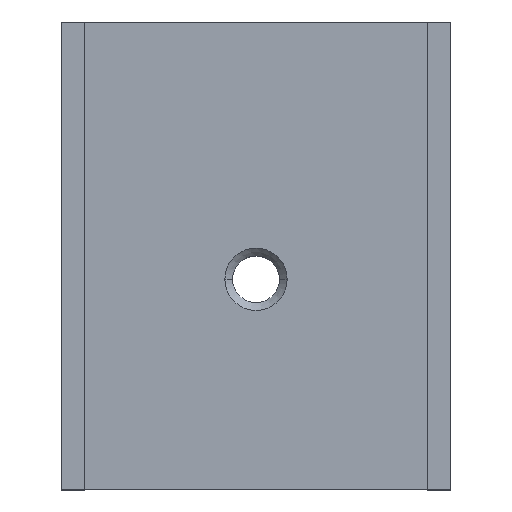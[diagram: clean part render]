
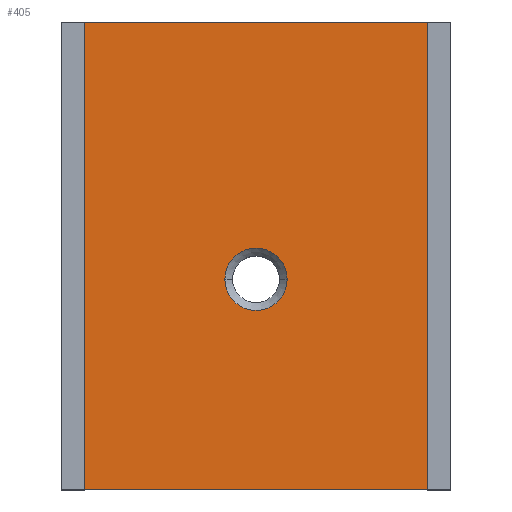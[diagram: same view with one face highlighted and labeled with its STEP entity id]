
A CAD part, top view. The second image highlights one B-rep face of the part: STEP entity #405.
In plain terms, the highlighted planar face has unit normal (0, 0, 1).
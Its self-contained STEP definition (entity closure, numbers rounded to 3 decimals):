
#6 = EDGE_CURVE ( 'NONE', #229, #390, #173, .T. ) ;
#13 = CARTESIAN_POINT ( 'NONE',  ( -21., 27., 13. ) ) ;
#22 = CARTESIAN_POINT ( 'NONE',  ( -3., 0., 13. ) ) ;
#37 = DIRECTION ( 'NONE',  ( 0., 0., -1. ) ) ;
#42 = AXIS2_PLACEMENT_3D ( 'NONE', #340, #37, #425 ) ;
#43 = DIRECTION ( 'NONE',  ( 1., 0., 0. ) ) ;
#57 = LINE ( 'NONE', #295, #557 ) ;
#69 = CARTESIAN_POINT ( 'NONE',  ( -50., 0., 13. ) ) ;
#75 = VECTOR ( 'NONE', #350, 1000. ) ;
#76 = PLANE ( 'NONE',  #363 ) ;
#108 = VERTEX_POINT ( 'NONE', #239 ) ;
#113 = FACE_BOUND ( 'NONE', #433, .T. ) ;
#120 = DIRECTION ( 'NONE',  ( 0., 0., 1. ) ) ;
#128 = EDGE_CURVE ( 'NONE', #621, #227, #432, .T. ) ;
#151 = AXIS2_PLACEMENT_3D ( 'NONE', #479, #242, #43 ) ;
#173 = LINE ( 'NONE', #69, #346 ) ;
#193 = CARTESIAN_POINT ( 'NONE',  ( -3., 60., 13. ) ) ;
#224 = LINE ( 'NONE', #193, #75 ) ;
#227 = VERTEX_POINT ( 'NONE', #13 ) ;
#229 = VERTEX_POINT ( 'NONE', #588 ) ;
#232 = DIRECTION ( 'NONE',  ( -1., 0., 0. ) ) ;
#234 = DIRECTION ( 'NONE',  ( 1., 0., 0. ) ) ;
#239 = CARTESIAN_POINT ( 'NONE',  ( -3., 60., 13. ) ) ;
#240 = FACE_OUTER_BOUND ( 'NONE', #251, .T. ) ;
#242 = DIRECTION ( 'NONE',  ( 0., 0., -1. ) ) ;
#251 = EDGE_LOOP ( 'NONE', ( #398, #277, #298, #481 ) ) ;
#267 = CARTESIAN_POINT ( 'NONE',  ( -50., 0., 13. ) ) ;
#277 = ORIENTED_EDGE ( 'NONE', *, *, #494, .T. ) ;
#279 = CARTESIAN_POINT ( 'NONE',  ( -50., 60., 13. ) ) ;
#295 = CARTESIAN_POINT ( 'NONE',  ( -47., 60., 13. ) ) ;
#298 = ORIENTED_EDGE ( 'NONE', *, *, #617, .F. ) ;
#317 = LINE ( 'NONE', #279, #460 ) ;
#324 = CARTESIAN_POINT ( 'NONE',  ( -47., 60., 13. ) ) ;
#330 = VERTEX_POINT ( 'NONE', #324 ) ;
#340 = CARTESIAN_POINT ( 'NONE',  ( -25., 27., 13. ) ) ;
#341 = DIRECTION ( 'NONE',  ( 0., 1., 0. ) ) ;
#346 = VECTOR ( 'NONE', #234, 1000. ) ;
#350 = DIRECTION ( 'NONE',  ( 0., -1., 0. ) ) ;
#363 = AXIS2_PLACEMENT_3D ( 'NONE', #267, #120, #512 ) ;
#390 = VERTEX_POINT ( 'NONE', #22 ) ;
#391 = CARTESIAN_POINT ( 'NONE',  ( -29., 27., 13. ) ) ;
#398 = ORIENTED_EDGE ( 'NONE', *, *, #601, .F. ) ;
#405 = ADVANCED_FACE ( 'NONE', ( #113, #240 ), #76, .T. ) ;
#425 = DIRECTION ( 'NONE',  ( 1., 0., 0. ) ) ;
#432 = CIRCLE ( 'NONE', #151, 4. ) ;
#433 = EDGE_LOOP ( 'NONE', ( #587, #582 ) ) ;
#460 = VECTOR ( 'NONE', #232, 1000. ) ;
#479 = CARTESIAN_POINT ( 'NONE',  ( -25., 27., 13. ) ) ;
#481 = ORIENTED_EDGE ( 'NONE', *, *, #6, .T. ) ;
#482 = EDGE_CURVE ( 'NONE', #227, #621, #614, .T. ) ;
#494 = EDGE_CURVE ( 'NONE', #108, #330, #317, .T. ) ;
#512 = DIRECTION ( 'NONE',  ( 1., 0., 0. ) ) ;
#557 = VECTOR ( 'NONE', #341, 1000. ) ;
#582 = ORIENTED_EDGE ( 'NONE', *, *, #128, .T. ) ;
#587 = ORIENTED_EDGE ( 'NONE', *, *, #482, .T. ) ;
#588 = CARTESIAN_POINT ( 'NONE',  ( -47., 0., 13. ) ) ;
#601 = EDGE_CURVE ( 'NONE', #108, #390, #224, .T. ) ;
#614 = CIRCLE ( 'NONE', #42, 4. ) ;
#617 = EDGE_CURVE ( 'NONE', #229, #330, #57, .T. ) ;
#621 = VERTEX_POINT ( 'NONE', #391 ) ;
